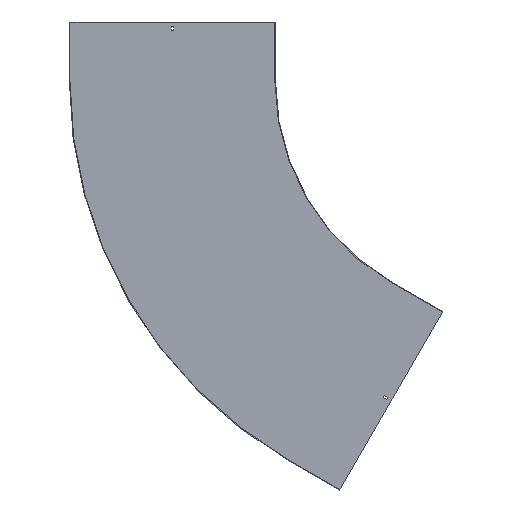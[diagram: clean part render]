
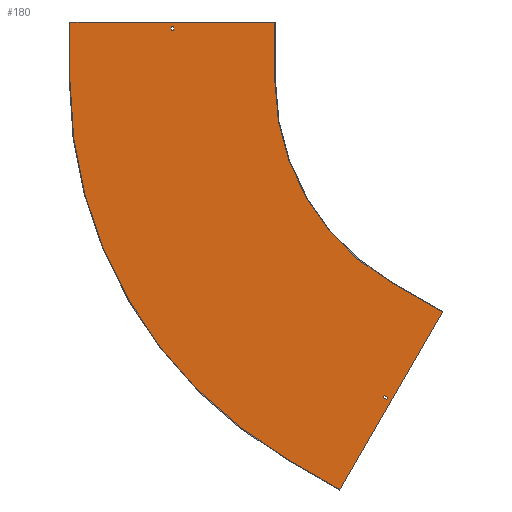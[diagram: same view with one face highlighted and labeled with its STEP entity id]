
A CAD part, front view. The second image highlights one B-rep face of the part: STEP entity #180.
In plain terms, the highlighted planar face has unit normal (0, -1, 0).
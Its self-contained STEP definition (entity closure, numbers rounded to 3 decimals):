
#1 = ORIENTED_EDGE ( 'NONE', *, *, #493, .F. ) ;
#11 = VERTEX_POINT ( 'NONE', #722 ) ;
#15 = ORIENTED_EDGE ( 'NONE', *, *, #403, .F. ) ;
#17 = DIRECTION ( 'NONE',  ( 0., 0., 1. ) ) ;
#20 = VECTOR ( 'NONE', #604, 1000. ) ;
#24 = CARTESIAN_POINT ( 'NONE',  ( 0., -1.5, 0. ) ) ;
#28 = EDGE_CURVE ( 'NONE', #698, #362, #672, .T. ) ;
#30 = CARTESIAN_POINT ( 'NONE',  ( -303.863, -1.5, -802.307 ) ) ;
#34 = VECTOR ( 'NONE', #314, 1000. ) ;
#35 = ORIENTED_EDGE ( 'NONE', *, *, #28, .F. ) ;
#39 = ORIENTED_EDGE ( 'NONE', *, *, #696, .F. ) ;
#42 = DIRECTION ( 'NONE',  ( 0.866, 0., -0.5 ) ) ;
#56 = EDGE_CURVE ( 'NONE', #98, #383, #680, .T. ) ;
#61 = VERTEX_POINT ( 'NONE', #207 ) ;
#66 = EDGE_CURVE ( 'NONE', #850, #257, #273, .T. ) ;
#68 = CARTESIAN_POINT ( 'NONE',  ( -853.25, -1.5, 129. ) ) ;
#73 = CARTESIAN_POINT ( 'NONE',  ( -853.25, -1.5, 0. ) ) ;
#78 = CARTESIAN_POINT ( 'NONE',  ( -425.096, -1.5, -1036.288 ) ) ;
#79 = CARTESIAN_POINT ( 'NONE',  ( -423.375, -1.5, -733.307 ) ) ;
#80 = ORIENTED_EDGE ( 'NONE', *, *, #66, .T. ) ;
#87 = EDGE_CURVE ( 'NONE', #777, #793, #153, .T. ) ;
#91 = EDGE_CURVE ( 'NONE', #583, #61, #415, .T. ) ;
#98 = VERTEX_POINT ( 'NONE', #806 ) ;
#101 = ORIENTED_EDGE ( 'NONE', *, *, #56, .F. ) ;
#105 = CARTESIAN_POINT ( 'NONE',  ( 0., -1.5, 138. ) ) ;
#115 = CARTESIAN_POINT ( 'NONE',  ( -590., -1.5, 0. ) ) ;
#118 = LINE ( 'NONE', #245, #382 ) ;
#124 = CARTESIAN_POINT ( 'NONE',  ( -425.096, -1.5, -1036.288 ) ) ;
#144 = DIRECTION ( 'NONE',  ( 0., -1., 0. ) ) ;
#153 = CIRCLE ( 'NONE', #635, 1110. ) ;
#155 = EDGE_CURVE ( 'NONE', #11, #98, #763, .T. ) ;
#163 = ORIENTED_EDGE ( 'NONE', *, *, #766, .T. ) ;
#165 = LINE ( 'NONE', #557, #674 ) ;
#171 = CARTESIAN_POINT ( 'NONE',  ( -853.25, -1.5, 138. ) ) ;
#174 = LINE ( 'NONE', #512, #646 ) ;
#180 = ADVANCED_FACE ( 'NONE', ( #231, #297, #357 ), #373, .T. ) ;
#189 = CARTESIAN_POINT ( 'NONE',  ( -1110., -1.5, 0. ) ) ;
#190 = CARTESIAN_POINT ( 'NONE',  ( 0., -1.5, 0. ) ) ;
#207 = CARTESIAN_POINT ( 'NONE',  ( -311.658, -1.5, -797.807 ) ) ;
#231 = FACE_BOUND ( 'NONE', #811, .T. ) ;
#244 = VECTOR ( 'NONE', #335, 1000. ) ;
#245 = CARTESIAN_POINT ( 'NONE',  ( -1111.5, -1.5, 150. ) ) ;
#246 = CARTESIAN_POINT ( 'NONE',  ( -307.113, -1.5, -807.936 ) ) ;
#249 = DIRECTION ( 'NONE',  ( 1., 0., 0. ) ) ;
#251 = EDGE_CURVE ( 'NONE', #619, #850, #642, .T. ) ;
#253 = LINE ( 'NONE', #509, #730 ) ;
#257 = VERTEX_POINT ( 'NONE', #171 ) ;
#259 = VECTOR ( 'NONE', #618, 1000. ) ;
#268 = AXIS2_PLACEMENT_3D ( 'NONE', #190, #741, #281 ) ;
#272 = VECTOR ( 'NONE', #42, 1000. ) ;
#273 = LINE ( 'NONE', #73, #829 ) ;
#281 = DIRECTION ( 'NONE',  ( 0., 0., -1. ) ) ;
#282 = VERTEX_POINT ( 'NONE', #246 ) ;
#288 = ORIENTED_EDGE ( 'NONE', *, *, #726, .T. ) ;
#297 = FACE_OUTER_BOUND ( 'NONE', #534, .T. ) ;
#304 = ORIENTED_EDGE ( 'NONE', *, *, #87, .F. ) ;
#310 = EDGE_CURVE ( 'NONE', #793, #816, #174, .T. ) ;
#313 = CIRCLE ( 'NONE', #268, 590. ) ;
#314 = DIRECTION ( 'NONE',  ( 1., 0., 0. ) ) ;
#324 = CARTESIAN_POINT ( 'NONE',  ( -164.346, -1.5, -584.656 ) ) ;
#332 = LINE ( 'NONE', #124, #510 ) ;
#335 = DIRECTION ( 'NONE',  ( 0.5, 0., 0.866 ) ) ;
#342 = CARTESIAN_POINT ( 'NONE',  ( 0., -1.5, 0. ) ) ;
#348 = EDGE_LOOP ( 'NONE', ( #288, #163, #808, #80 ) ) ;
#357 = FACE_BOUND ( 'NONE', #348, .T. ) ;
#362 = VERTEX_POINT ( 'NONE', #115 ) ;
#373 = PLANE ( 'NONE',  #606 ) ;
#382 = VECTOR ( 'NONE', #249, 1000. ) ;
#383 = VERTEX_POINT ( 'NONE', #78 ) ;
#389 = DIRECTION ( 'NONE',  ( 0., 0., -1. ) ) ;
#397 = DIRECTION ( 'NONE',  ( 0.866, 0., -0.5 ) ) ;
#403 = EDGE_CURVE ( 'NONE', #383, #777, #332, .T. ) ;
#411 = VECTOR ( 'NONE', #389, 1000. ) ;
#415 = LINE ( 'NONE', #79, #259 ) ;
#416 = EDGE_CURVE ( 'NONE', #282, #583, #814, .T. ) ;
#443 = CARTESIAN_POINT ( 'NONE',  ( -590., -1.5, 150. ) ) ;
#451 = CARTESIAN_POINT ( 'NONE',  ( 0., -1.5, 129. ) ) ;
#456 = ORIENTED_EDGE ( 'NONE', *, *, #155, .F. ) ;
#462 = LINE ( 'NONE', #729, #801 ) ;
#467 = ORIENTED_EDGE ( 'NONE', *, *, #310, .F. ) ;
#471 = EDGE_CURVE ( 'NONE', #362, #11, #313, .T. ) ;
#485 = VERTEX_POINT ( 'NONE', #679 ) ;
#493 = EDGE_CURVE ( 'NONE', #790, #282, #462, .T. ) ;
#509 = CARTESIAN_POINT ( 'NONE',  ( -846.75, -1.5, 0. ) ) ;
#510 = VECTOR ( 'NONE', #548, 1000. ) ;
#512 = CARTESIAN_POINT ( 'NONE',  ( -1110., -1.5, 0. ) ) ;
#514 = VECTOR ( 'NONE', #589, 1000. ) ;
#517 = DIRECTION ( 'NONE',  ( 0., 0., 1. ) ) ;
#522 = DIRECTION ( 'NONE',  ( 0., 0., -1. ) ) ;
#534 = EDGE_LOOP ( 'NONE', ( #39, #467, #304, #15, #101, #456, #676, #35 ) ) ;
#539 = DIRECTION ( 'NONE',  ( 0., 1., 0. ) ) ;
#548 = DIRECTION ( 'NONE',  ( -0.866, 0., 0.5 ) ) ;
#553 = DIRECTION ( 'NONE',  ( -0.5, 0., -0.866 ) ) ;
#557 = CARTESIAN_POINT ( 'NONE',  ( 111.717, -1.5, -64.5 ) ) ;
#566 = ORIENTED_EDGE ( 'NONE', *, *, #416, .F. ) ;
#583 = VERTEX_POINT ( 'NONE', #30 ) ;
#589 = DIRECTION ( 'NONE',  ( -1., 0., 0. ) ) ;
#597 = EDGE_CURVE ( 'NONE', #61, #790, #165, .T. ) ;
#604 = DIRECTION ( 'NONE',  ( -0.5, 0., -0.866 ) ) ;
#606 = AXIS2_PLACEMENT_3D ( 'NONE', #24, #144, #629 ) ;
#614 = DIRECTION ( 'NONE',  ( 0., 0., -1. ) ) ;
#618 = DIRECTION ( 'NONE',  ( -0.866, 0., 0.5 ) ) ;
#619 = VERTEX_POINT ( 'NONE', #820 ) ;
#629 = DIRECTION ( 'NONE',  ( 0., 0., -1. ) ) ;
#635 = AXIS2_PLACEMENT_3D ( 'NONE', #342, #539, #614 ) ;
#642 = LINE ( 'NONE', #451, #514 ) ;
#646 = VECTOR ( 'NONE', #517, 1000. ) ;
#655 = CARTESIAN_POINT ( 'NONE',  ( -590., -1.5, 150. ) ) ;
#672 = LINE ( 'NONE', #655, #411 ) ;
#674 = VECTOR ( 'NONE', #553, 1000. ) ;
#676 = ORIENTED_EDGE ( 'NONE', *, *, #471, .F. ) ;
#679 = CARTESIAN_POINT ( 'NONE',  ( -846.75, -1.5, 138. ) ) ;
#680 = LINE ( 'NONE', #324, #20 ) ;
#696 = EDGE_CURVE ( 'NONE', #816, #698, #118, .T. ) ;
#697 = CARTESIAN_POINT ( 'NONE',  ( -295., -1.5, -510.955 ) ) ;
#698 = VERTEX_POINT ( 'NONE', #443 ) ;
#722 = CARTESIAN_POINT ( 'NONE',  ( -295., -1.5, -510.955 ) ) ;
#726 = EDGE_CURVE ( 'NONE', #257, #485, #838, .T. ) ;
#728 = CARTESIAN_POINT ( 'NONE',  ( -1110., -1.5, 150. ) ) ;
#729 = CARTESIAN_POINT ( 'NONE',  ( -426.625, -1.5, -738.936 ) ) ;
#730 = VECTOR ( 'NONE', #522, 1000. ) ;
#735 = CARTESIAN_POINT ( 'NONE',  ( 119.512, -1.5, -69. ) ) ;
#741 = DIRECTION ( 'NONE',  ( 0., -1., 0. ) ) ;
#763 = LINE ( 'NONE', #697, #272 ) ;
#766 = EDGE_CURVE ( 'NONE', #485, #619, #253, .T. ) ;
#777 = VERTEX_POINT ( 'NONE', #804 ) ;
#790 = VERTEX_POINT ( 'NONE', #797 ) ;
#793 = VERTEX_POINT ( 'NONE', #189 ) ;
#797 = CARTESIAN_POINT ( 'NONE',  ( -314.908, -1.5, -803.436 ) ) ;
#801 = VECTOR ( 'NONE', #397, 1000. ) ;
#803 = ORIENTED_EDGE ( 'NONE', *, *, #597, .F. ) ;
#804 = CARTESIAN_POINT ( 'NONE',  ( -555., -1.5, -961.288 ) ) ;
#806 = CARTESIAN_POINT ( 'NONE',  ( -165.096, -1.5, -585.955 ) ) ;
#808 = ORIENTED_EDGE ( 'NONE', *, *, #251, .T. ) ;
#811 = EDGE_LOOP ( 'NONE', ( #842, #566, #1, #803 ) ) ;
#814 = LINE ( 'NONE', #735, #244 ) ;
#816 = VERTEX_POINT ( 'NONE', #728 ) ;
#820 = CARTESIAN_POINT ( 'NONE',  ( -846.75, -1.5, 129. ) ) ;
#829 = VECTOR ( 'NONE', #17, 1000. ) ;
#838 = LINE ( 'NONE', #105, #34 ) ;
#842 = ORIENTED_EDGE ( 'NONE', *, *, #91, .F. ) ;
#850 = VERTEX_POINT ( 'NONE', #68 ) ;
